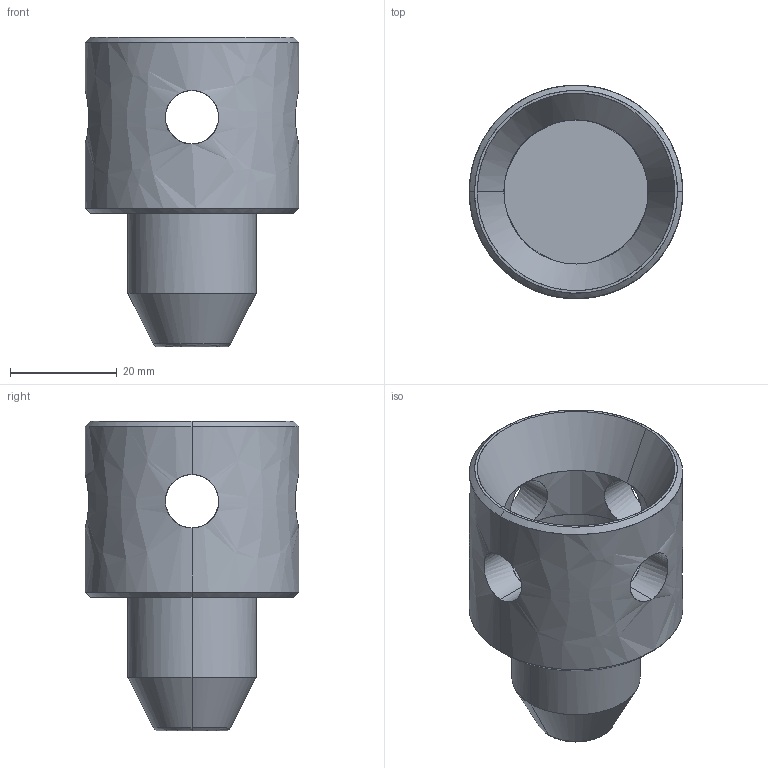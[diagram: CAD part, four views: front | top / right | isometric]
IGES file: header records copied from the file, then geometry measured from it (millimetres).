
Global section: file name: E:\UnigraphicsGraphicData\MISUMI_PRESS-PARTS\IGES\3d_kpb25_07043_r00.igs; native system: NX V5.0; preprocessor: UGS NX IGES V5.0; author: MISUMI; date: 20110105.161141; units: millimetre
Bounding box: 40 x 40 x 58 mm (x, y, z)
Surface area: 10190.4 mm2 (no closed solid volume)
Topology: 0 solids, 0 shells, 34 faces, 320 edges, 320 vertices
Faces by surface type: bspline 34
